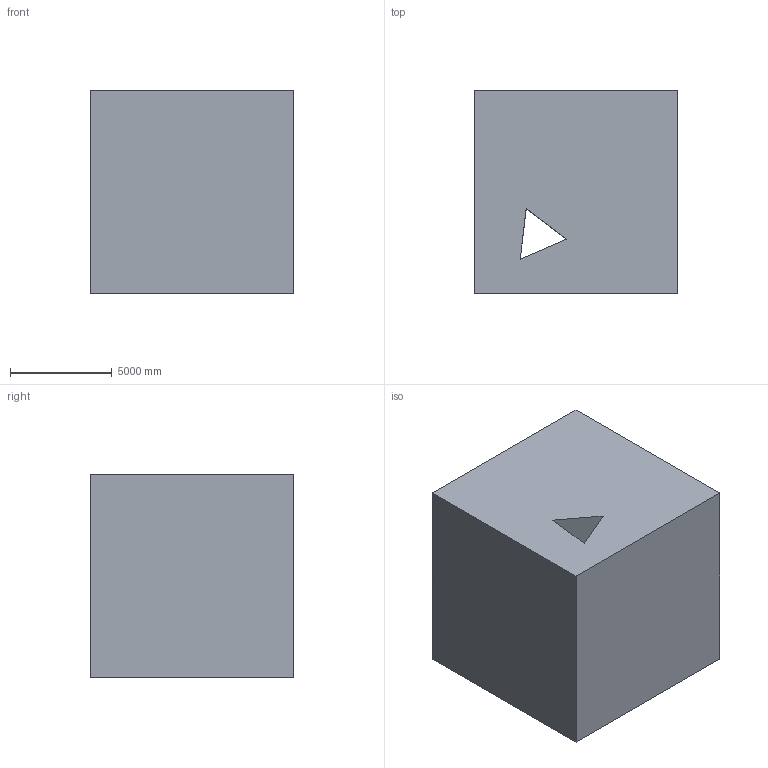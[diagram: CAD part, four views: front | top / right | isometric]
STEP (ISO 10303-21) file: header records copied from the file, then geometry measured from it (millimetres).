
FILE_DESCRIPTION (( 'STEP AP203' ), '1' );
FILE_NAME ('160.STEP', '2022-07-28T13:46:25', ( 'user' ), ( '' ), 'SwSTEP 2.0', 'SolidWorks 2021', '' );
FILE_SCHEMA (( 'CONFIG_CONTROL_DESIGN' ));
Length unit declared in the file: centimetre
Products named in the file (1): 160
Bounding box: 10000 x 10000 x 10000 mm (x, y, z)
Volume: 939452854813.8 mm3; surface area: 726155398.7 mm2
Topology: 1 solids, 1 shells, 15 faces, 33 edges, 22 vertices
Faces by surface type: plane 11, cylinder 4
Entity records: 496 total; most frequent: DIRECTION 73, CARTESIAN_POINT 71, ORIENTED_EDGE 66, EDGE_CURVE 33, LINE 25, VECTOR 25, AXIS2_PLACEMENT_3D 24, VERTEX_POINT 22
